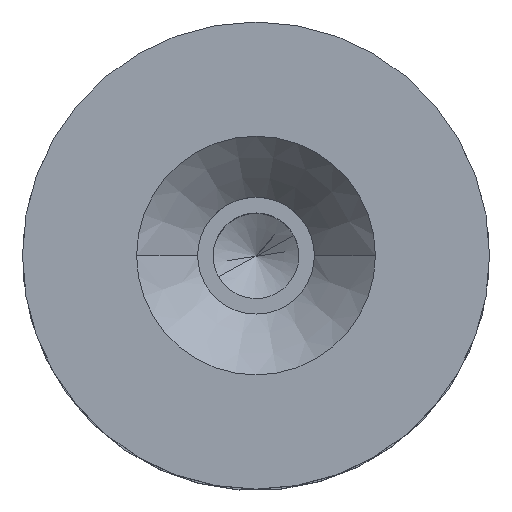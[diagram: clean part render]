
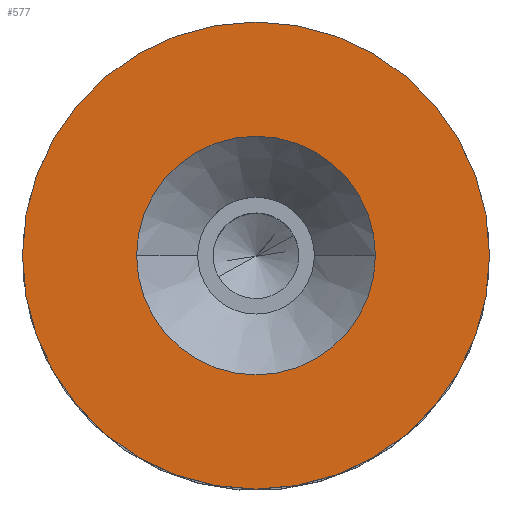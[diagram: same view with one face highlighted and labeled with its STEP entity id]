
A CAD part, top view. The second image highlights one B-rep face of the part: STEP entity #577.
In plain terms, the highlighted planar face has unit normal (0, 0, 1).
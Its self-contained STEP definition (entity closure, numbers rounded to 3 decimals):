
#30 = AXIS2_PLACEMENT_3D ( 'NONE', #600, #504, #501 ) ;
#35 = DIRECTION ( 'NONE',  ( 1., 0., 0. ) ) ;
#39 = DIRECTION ( 'NONE',  ( 0., 0., 1. ) ) ;
#42 = CARTESIAN_POINT ( 'NONE',  ( 0., 0., 4. ) ) ;
#46 = ORIENTED_EDGE ( 'NONE', *, *, #751, .T. ) ;
#70 = CARTESIAN_POINT ( 'NONE',  ( 9., 0., 4. ) ) ;
#72 = DIRECTION ( 'NONE',  ( 1., 0., 0. ) ) ;
#77 = DIRECTION ( 'NONE',  ( 0., 0., -1. ) ) ;
#78 = CARTESIAN_POINT ( 'NONE',  ( 0., 0., 4. ) ) ;
#95 = CARTESIAN_POINT ( 'NONE',  ( -4.6, 0., 4. ) ) ;
#233 = CIRCLE ( 'NONE', #723, 9. ) ;
#252 = CIRCLE ( 'NONE', #637, 4.6 ) ;
#302 = VERTEX_POINT ( 'NONE', #808 ) ;
#333 = FACE_BOUND ( 'NONE', #362, .T. ) ;
#334 = CIRCLE ( 'NONE', #522, 4.6 ) ;
#357 = FACE_OUTER_BOUND ( 'NONE', #382, .T. ) ;
#362 = EDGE_LOOP ( 'NONE', ( #46, #434 ) ) ;
#382 = EDGE_LOOP ( 'NONE', ( #621, #530 ) ) ;
#430 = EDGE_CURVE ( 'NONE', #759, #302, #861, .T. ) ;
#434 = ORIENTED_EDGE ( 'NONE', *, *, #569, .T. ) ;
#440 = AXIS2_PLACEMENT_3D ( 'NONE', #690, #685, #684 ) ;
#461 = VERTEX_POINT ( 'NONE', #665 ) ;
#501 = DIRECTION ( 'NONE',  ( 1., 0., 0. ) ) ;
#504 = DIRECTION ( 'NONE',  ( 0., 0., 1. ) ) ;
#509 = PLANE ( 'NONE',  #30 ) ;
#522 = AXIS2_PLACEMENT_3D ( 'NONE', #540, #527, #524 ) ;
#524 = DIRECTION ( 'NONE',  ( 1., 0., 0. ) ) ;
#527 = DIRECTION ( 'NONE',  ( 0., 0., -1. ) ) ;
#530 = ORIENTED_EDGE ( 'NONE', *, *, #430, .T. ) ;
#540 = CARTESIAN_POINT ( 'NONE',  ( 0., 0., 4. ) ) ;
#569 = EDGE_CURVE ( 'NONE', #767, #461, #334, .T. ) ;
#577 = ADVANCED_FACE ( 'NONE', ( #333, #357 ), #509, .T. ) ;
#600 = CARTESIAN_POINT ( 'NONE',  ( 0., 0., 4. ) ) ;
#621 = ORIENTED_EDGE ( 'NONE', *, *, #775, .T. ) ;
#637 = AXIS2_PLACEMENT_3D ( 'NONE', #78, #77, #72 ) ;
#665 = CARTESIAN_POINT ( 'NONE',  ( 4.6, 0., 4. ) ) ;
#684 = DIRECTION ( 'NONE',  ( 1., 0., 0. ) ) ;
#685 = DIRECTION ( 'NONE',  ( 0., 0., 1. ) ) ;
#690 = CARTESIAN_POINT ( 'NONE',  ( 0., 0., 4. ) ) ;
#723 = AXIS2_PLACEMENT_3D ( 'NONE', #42, #39, #35 ) ;
#751 = EDGE_CURVE ( 'NONE', #461, #767, #252, .T. ) ;
#759 = VERTEX_POINT ( 'NONE', #70 ) ;
#767 = VERTEX_POINT ( 'NONE', #95 ) ;
#775 = EDGE_CURVE ( 'NONE', #302, #759, #233, .T. ) ;
#808 = CARTESIAN_POINT ( 'NONE',  ( -9., 0., 4. ) ) ;
#861 = CIRCLE ( 'NONE', #440, 9. ) ;
